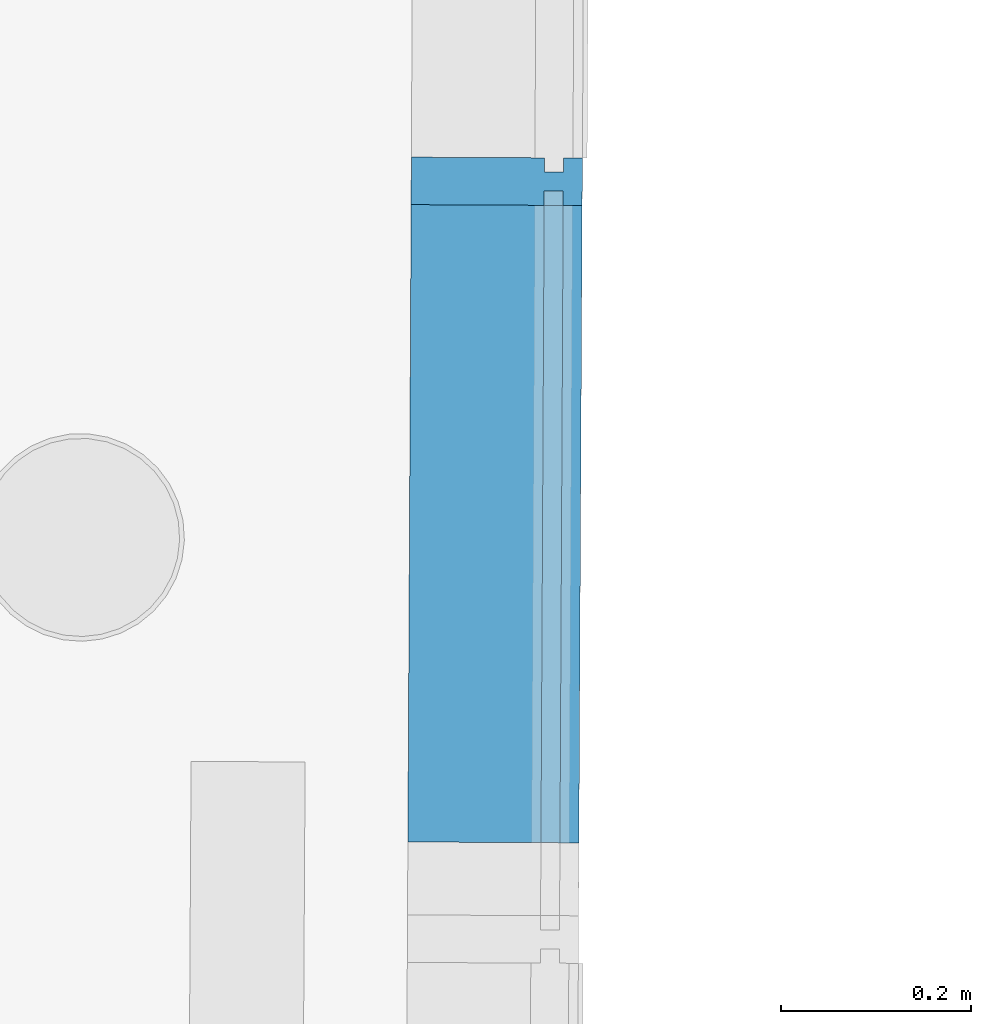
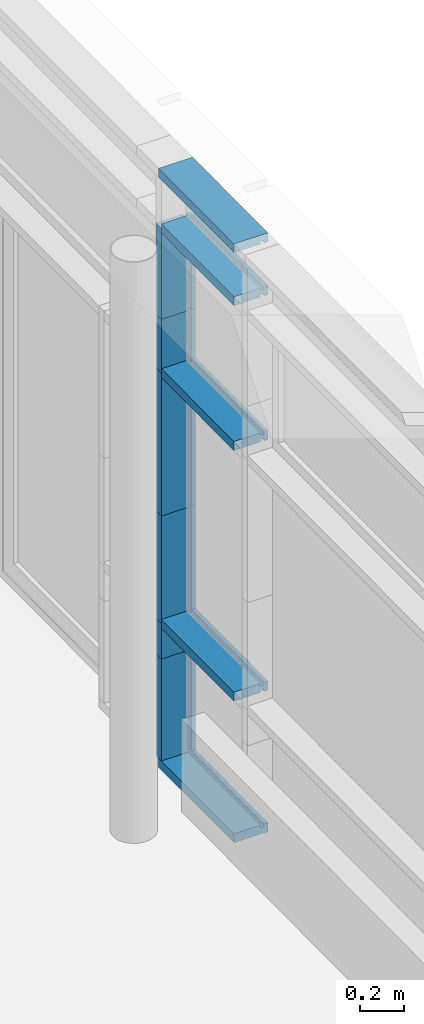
# One storey, part 180 of 196: 11 building element parts, 1 element without a shape of its own.
"""IFC2X3 building model written with IfcOpenShell, lengths in metres."""

from ifc_helpers import new_model, entity, si_unit, converted_unit, derived_unit, money_unit, direction, frame, origin_with_axes, place, context, subcontext, project, spatial, faceted_brep, material, type_object, element, aggregate, save


model = new_model("IFC2X3")

# Units and contexts
model_context = context("Model", 3, precision=1e-05, world=origin_with_axes(), true_north=direction((0.0, 1.0)))
body_context = subcontext(model_context, "Body", "Model", "MODEL_VIEW")
ifc_project = project(units=[si_unit("LENGTHUNIT", "METRE"), si_unit("AREAUNIT", "SQUARE_METRE"), si_unit("VOLUMEUNIT", "CUBIC_METRE"), converted_unit("PLANEANGLEUNIT", "DEGREE", entity("IfcPlaneAngleMeasure", 0.0174532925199), si_unit("PLANEANGLEUNIT", "RADIAN"), dimensions=[0, 0, 0, 0, 0, 0, 0]), money_unit("EUR"), converted_unit("TIMEUNIT", "Year", entity("IfcTimeMeasure", 31556926.0), si_unit("TIMEUNIT", "SECOND"), dimensions=[0, 0, 1, 0, 0, 0, 0]), si_unit("MASSUNIT", "GRAM", prefix="KILO"), si_unit("THERMODYNAMICTEMPERATUREUNIT", "DEGREE_CELSIUS"), si_unit("LUMINOUSINTENSITYUNIT", "LUMEN"), si_unit("ENERGYUNIT", "JOULE", prefix="MEGA"), derived_unit("THERMALCONDUCTANCEUNIT", [(si_unit("POWERUNIT", "WATT"), 1), (si_unit("LENGTHUNIT", "METRE"), -1), (si_unit("THERMODYNAMICTEMPERATUREUNIT", "KELVIN"), -1)]), derived_unit("SPECIFICHEATCAPACITYUNIT", [(si_unit("ENERGYUNIT", "JOULE"), 1), (si_unit("MASSUNIT", "GRAM", prefix="KILO"), -1), (si_unit("THERMODYNAMICTEMPERATUREUNIT", "KELVIN"), -1)]), derived_unit("MASSDENSITYUNIT", [(si_unit("MASSUNIT", "GRAM", prefix="KILO"), 1), (si_unit("VOLUMEUNIT", "CUBIC_METRE"), -1)])], contexts=[model_context])

# Site, building, storey
site_placement = place(None, origin_with_axes())
site = spatial("IfcSite", under=ifc_project, at=site_placement, Name="Gelände", CompositionType="ELEMENT")
building_placement = place(site_placement, origin_with_axes())
building = spatial("IfcBuilding", under=site, at=building_placement, Name="Gebäude", CompositionType="ELEMENT")
storey_placement = place(building_placement, frame((0.0, 0.0, -3.0), z_axis=(0.0, 0.0, 1.0), x_axis=(1.0, 0.0, 0.0)))
storey = spatial("IfcBuildingStorey", under=building, at=storey_placement, Name="KELLERGESCHOSS", CompositionType="ELEMENT", Elevation=-3.0)

# Proxy, building element parts
building_element_proxy_type = type_object("IfcBuildingElementProxyType", Name="Fassadentyp", PredefinedType="NOTDEFINED")
proxy_placement = place(storey_placement, frame((9.16160365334, 37.7476945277, 0.610000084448), z_axis=(0.0, 0.0, 1.0), x_axis=(1.0, 0.0, 0.0)))
proxy = element("IfcBuildingElementProxy", 1, at=proxy_placement, inside=storey, type_object=building_element_proxy_type, Name="Fassade-002")
ifc_material = material(Name="53_Metall, Aluminium")
building_element_part_1_placement = place(proxy_placement, origin_with_axes())
building_element_part_1 = element("IfcBuildingElementPart", 2, at=building_element_part_1_placement, material=ifc_material, Name="53_Metall, Aluminium", context=body_context, shape_type="Brep", body=[
    faceted_brep([(-0.000425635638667, 1.8887673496, 3.01949642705), (-0.000425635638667, 1.8887673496, 3.00449642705), (-0.140423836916, 1.88947702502, 3.00449642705), (-0.140423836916, 1.88947702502, 3.05449642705), (-0.000425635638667, 1.8887673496, 3.05449642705), (-0.000425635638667, 1.8887673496, 3.03949642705), (0.0195741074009, 1.88866596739, 3.03949642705), (0.0195741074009, 1.88866596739, 3.05449642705), (0.0395738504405, 1.88856458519, 3.05449642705), (0.0395738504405, 1.88856458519, 3.00449642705), (0.0195741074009, 1.88866596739, 3.00449642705), (0.0195741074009, 1.88866596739, 3.01949642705), (-0.00382530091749, 1.21811284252, 3.01949642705), (-0.00382530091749, 1.21811284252, 3.00449642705), (-0.143823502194, 1.21882251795, 3.00449642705), (-0.143823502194, 1.21882251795, 3.05449642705), (-0.00382530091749, 1.21811284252, 3.05449642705), (-0.00382530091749, 1.21811284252, 3.03949642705), (0.0161744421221, 1.21801146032, 3.03949642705), (0.0161744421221, 1.21801146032, 3.05449642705), (0.0361741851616, 1.21791007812, 3.05449642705), (0.0361741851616, 1.21791007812, 3.00449642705), (0.0161744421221, 1.21801146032, 3.00449642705), (0.0161744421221, 1.21801146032, 3.01949642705)], [[[0, 1, 2, 3, 4, 5, 6, 7, 8, 9, 10, 11]], [[1, 0, 12, 13]], [[1, 13, 14, 2]], [[3, 2, 14, 15]], [[4, 3, 15, 16]], [[4, 16, 17, 5]], [[5, 17, 18, 6]], [[7, 6, 18, 19]], [[19, 20, 8, 7]], [[9, 8, 20, 21]], [[22, 10, 9, 21]], [[11, 10, 22, 23]], [[0, 11, 23, 12]], [[23, 22, 21, 20, 19, 18, 17, 16, 15, 14, 13, 12]]]),
])
building_element_part_2_placement = place(proxy_placement, origin_with_axes())
building_element_part_2 = element("IfcBuildingElementPart", 3, at=building_element_part_2_placement, material=ifc_material, Name="53_Metall, Aluminium", context=body_context, shape_type="Brep", body=[
    faceted_brep([(-0.000298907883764, 1.91376702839, 3.31499994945), (-0.000298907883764, 1.91376702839, 3.29999994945), (-0.140297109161, 1.91447670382, 3.29999994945), (-0.140297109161, 1.91447670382, 3.34999994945), (0.0397005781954, 1.91356426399, 3.34999994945), (0.0397005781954, 1.91356426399, 3.29999994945), (0.0197008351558, 1.91366564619, 3.29999994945), (0.0197008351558, 1.91366564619, 3.31499994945), (-0.00382530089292, 1.21811284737, 3.31499994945), (-0.00382530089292, 1.21811284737, 3.29999994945), (-0.14382350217, 1.2188225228, 3.29999994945), (-0.14382350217, 1.2188225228, 3.34999994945), (0.0361741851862, 1.21791008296, 3.34999994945), (0.0361741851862, 1.21791008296, 3.29999994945), (0.0161744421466, 1.21801146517, 3.29999994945), (0.0161744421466, 1.21801146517, 3.31499994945)], [[[0, 1, 2, 3, 4, 5, 6, 7]], [[0, 8, 9, 1]], [[9, 10, 2, 1]], [[10, 11, 3, 2]], [[11, 12, 4, 3]], [[12, 13, 5, 4]], [[6, 5, 13, 14]], [[14, 15, 7, 6]], [[7, 15, 8, 0]], [[8, 15, 14, 13, 12, 11, 10, 9]]]),
])
building_element_part_3_placement = place(proxy_placement, origin_with_axes())
building_element_part_3 = element("IfcBuildingElementPart", 4, at=building_element_part_3_placement, material=ifc_material, Name="53_Metall, Aluminium", context=body_context, shape_type="Brep", body=[
    faceted_brep([(-0.000248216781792, 1.92376689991, 3.02949640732), (-0.000172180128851, 1.93876670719, 3.02949640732), (-0.140170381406, 1.93947638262, 3.02949640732), (-0.140423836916, 1.88947702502, 3.02949640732), (-0.000425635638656, 1.8887673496, 3.02949640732), (-0.000349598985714, 1.90376715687, 3.02949640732), (0.0196501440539, 1.90366577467, 3.02949640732), (0.0195741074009, 1.88866596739, 3.02949640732), (0.0395738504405, 1.88856458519, 3.02949640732), (0.0398273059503, 1.93856394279, 3.02949640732), (0.0198275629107, 1.93866532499, 3.02949640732), (0.0197515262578, 1.92366551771, 3.02949640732), (-0.000248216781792, 1.92376689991, 2.51999991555), (-0.000172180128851, 1.93876670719, 2.51999991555), (-0.140170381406, 1.93947638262, 2.51999991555), (-0.140423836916, 1.88947702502, 2.51999991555), (-0.000425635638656, 1.8887673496, 2.51999991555), (-0.000349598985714, 1.90376715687, 2.51999991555), (0.0196501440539, 1.90366577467, 2.51999991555), (0.0195741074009, 1.88866596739, 2.51999991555), (0.0395738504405, 1.88856458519, 2.51999991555), (0.0398273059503, 1.93856394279, 2.51999991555), (0.0198275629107, 1.93866532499, 2.51999991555), (0.0197515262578, 1.92366551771, 2.51999991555)], [[[0, 1, 2, 3, 4, 5, 6, 7, 8, 9, 10, 11]], [[1, 0, 12, 13]], [[1, 13, 14, 2]], [[3, 2, 14, 15]], [[4, 3, 15, 16]], [[4, 16, 17, 5]], [[5, 17, 18, 6]], [[7, 6, 18, 19]], [[19, 20, 8, 7]], [[9, 8, 20, 21]], [[22, 10, 9, 21]], [[11, 10, 22, 23]], [[0, 11, 23, 12]], [[23, 22, 21, 20, 19, 18, 17, 16, 15, 14, 13, 12]]]),
])
building_element_part_4_placement = place(proxy_placement, origin_with_axes())
building_element_part_4 = element("IfcBuildingElementPart", 5, at=building_element_part_4_placement, material=ifc_material, Name="53_Metall, Aluminium", context=body_context, shape_type="Brep", body=[
    faceted_brep([(-0.000248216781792, 1.92376689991, 2.51999992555), (-0.000172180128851, 1.93876670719, 2.51999992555), (-0.140170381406, 1.93947638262, 2.51999992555), (-0.140423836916, 1.88947702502, 2.51999992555), (-0.000425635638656, 1.8887673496, 2.51999992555), (-0.000349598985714, 1.90376715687, 2.51999992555), (0.0196501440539, 1.90366577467, 2.51999992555), (0.0195741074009, 1.88866596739, 2.51999992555), (0.0395738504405, 1.88856458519, 2.51999992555), (0.0398273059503, 1.93856394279, 2.51999992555), (0.0198275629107, 1.93866532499, 2.51999992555), (0.0197515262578, 1.92366551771, 2.51999992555), (-0.000248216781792, 1.92376689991, 2.21916310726), (-0.000172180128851, 1.93876670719, 2.21916310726), (-0.140170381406, 1.93947638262, 2.21916310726), (-0.140423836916, 1.88947702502, 2.21916310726), (-0.000425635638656, 1.8887673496, 2.21916310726), (-0.000349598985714, 1.90376715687, 2.21916310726), (0.0196501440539, 1.90366577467, 2.21916310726), (0.0195741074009, 1.88866596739, 2.21916310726), (0.0395738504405, 1.88856458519, 2.21916310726), (0.0398273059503, 1.93856394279, 2.21916310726), (0.0198275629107, 1.93866532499, 2.21916310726), (0.0197515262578, 1.92366551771, 2.21916310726)], [[[0, 1, 2, 3, 4, 5, 6, 7, 8, 9, 10, 11]], [[1, 0, 12, 13]], [[1, 13, 14, 2]], [[3, 2, 14, 15]], [[4, 3, 15, 16]], [[4, 16, 17, 5]], [[5, 17, 18, 6]], [[7, 6, 18, 19]], [[19, 20, 8, 7]], [[9, 8, 20, 21]], [[22, 10, 9, 21]], [[11, 10, 22, 23]], [[0, 11, 23, 12]], [[23, 22, 21, 20, 19, 18, 17, 16, 15, 14, 13, 12]]]),
])
building_element_part_5_placement = place(proxy_placement, origin_with_axes())
building_element_part_5 = element("IfcBuildingElementPart", 6, at=building_element_part_5_placement, material=ifc_material, Name="53_Metall, Aluminium", context=body_context, shape_type="Brep", body=[
    faceted_brep([(-0.000425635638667, 1.8887673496, 2.20916310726), (-0.000425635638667, 1.8887673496, 2.19416310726), (-0.140423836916, 1.88947702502, 2.19416310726), (-0.140423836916, 1.88947702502, 2.24416310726), (-0.000425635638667, 1.8887673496, 2.24416310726), (-0.000425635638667, 1.8887673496, 2.22916310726), (0.0195741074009, 1.88866596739, 2.22916310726), (0.0195741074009, 1.88866596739, 2.24416310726), (0.0395738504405, 1.88856458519, 2.24416310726), (0.0395738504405, 1.88856458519, 2.19416310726), (0.0195741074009, 1.88866596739, 2.19416310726), (0.0195741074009, 1.88866596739, 2.20916310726), (-0.00382530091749, 1.21811284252, 2.20916310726), (-0.00382530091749, 1.21811284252, 2.19416310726), (-0.143823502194, 1.21882251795, 2.19416310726), (-0.143823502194, 1.21882251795, 2.24416310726), (-0.00382530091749, 1.21811284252, 2.24416310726), (-0.00382530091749, 1.21811284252, 2.22916310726), (0.0161744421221, 1.21801146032, 2.22916310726), (0.0161744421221, 1.21801146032, 2.24416310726), (0.0361741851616, 1.21791007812, 2.24416310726), (0.0361741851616, 1.21791007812, 2.19416310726), (0.0161744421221, 1.21801146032, 2.19416310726), (0.0161744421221, 1.21801146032, 2.20916310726)], [[[0, 1, 2, 3, 4, 5, 6, 7, 8, 9, 10, 11]], [[1, 0, 12, 13]], [[1, 13, 14, 2]], [[3, 2, 14, 15]], [[4, 3, 15, 16]], [[4, 16, 17, 5]], [[5, 17, 18, 6]], [[7, 6, 18, 19]], [[19, 20, 8, 7]], [[9, 8, 20, 21]], [[22, 10, 9, 21]], [[11, 10, 22, 23]], [[0, 11, 23, 12]], [[23, 22, 21, 20, 19, 18, 17, 16, 15, 14, 13, 12]]]),
])
building_element_part_6_placement = place(proxy_placement, origin_with_axes())
building_element_part_6 = element("IfcBuildingElementPart", 7, at=building_element_part_6_placement, material=ifc_material, Name="53_Metall, Aluminium", context=body_context, shape_type="Brep", body=[
    faceted_brep([(-0.000248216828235, 1.92376689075, 2.21916309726), (-0.000172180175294, 1.93876669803, 2.21916309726), (-0.140170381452, 1.93947637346, 2.21916309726), (-0.140423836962, 1.88947701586, 2.21916309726), (-0.000425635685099, 1.88876734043, 2.21916309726), (-0.000349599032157, 1.90376714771, 2.21916309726), (0.0196501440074, 1.90366576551, 2.21916309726), (0.0195741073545, 1.88866595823, 2.21916309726), (0.039573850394, 1.88856457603, 2.21916309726), (0.0398273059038, 1.93856393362, 2.21916309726), (0.0198275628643, 1.93866531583, 2.21916309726), (0.0197515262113, 1.92366550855, 2.21916309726), (-0.000248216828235, 1.92376689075, 1.41999991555), (-0.000172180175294, 1.93876669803, 1.41999991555), (-0.140170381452, 1.93947637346, 1.41999991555), (-0.140423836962, 1.88947701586, 1.41999991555), (-0.000425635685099, 1.88876734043, 1.41999991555), (-0.000349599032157, 1.90376714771, 1.41999991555), (0.0196501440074, 1.90366576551, 1.41999991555), (0.0195741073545, 1.88866595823, 1.41999991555), (0.039573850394, 1.88856457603, 1.41999991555), (0.0398273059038, 1.93856393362, 1.41999991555), (0.0198275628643, 1.93866531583, 1.41999991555), (0.0197515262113, 1.92366550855, 1.41999991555)], [[[0, 1, 2, 3, 4, 5, 6, 7, 8, 9, 10, 11]], [[1, 0, 12, 13]], [[1, 13, 14, 2]], [[3, 2, 14, 15]], [[4, 3, 15, 16]], [[4, 16, 17, 5]], [[5, 17, 18, 6]], [[7, 6, 18, 19]], [[19, 20, 8, 7]], [[9, 8, 20, 21]], [[22, 10, 9, 21]], [[11, 10, 22, 23]], [[0, 11, 23, 12]], [[23, 22, 21, 20, 19, 18, 17, 16, 15, 14, 13, 12]]]),
])
building_element_part_7_placement = place(proxy_placement, origin_with_axes())
building_element_part_7 = element("IfcBuildingElementPart", 8, at=building_element_part_7_placement, material=ifc_material, Name="53_Metall, Aluminium", context=body_context, shape_type="Brep", body=[
    faceted_brep([(-0.000248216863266, 1.92376688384, 1.41999990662), (-0.000172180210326, 1.93876669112, 1.41999990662), (-0.140170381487, 1.93947636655, 1.41999990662), (-0.140423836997, 1.88947700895, 1.41999990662), (-0.000425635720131, 1.88876733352, 1.41999990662), (-0.000349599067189, 1.9037671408, 1.41999990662), (0.0196501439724, 1.9036657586, 1.41999990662), (0.0195741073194, 1.88866595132, 1.41999990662), (0.039573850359, 1.88856456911, 1.41999990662), (0.0398273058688, 1.93856392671, 1.41999990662), (0.0198275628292, 1.93866530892, 1.41999990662), (0.0197515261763, 1.92366550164, 1.41999990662), (-0.000248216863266, 1.92376688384, 0.817169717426), (-0.000172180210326, 1.93876669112, 0.817169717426), (-0.140170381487, 1.93947636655, 0.817169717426), (-0.140423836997, 1.88947700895, 0.817169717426), (-0.000425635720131, 1.88876733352, 0.817169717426), (-0.000349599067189, 1.9037671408, 0.817169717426), (0.0196501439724, 1.9036657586, 0.817169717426), (0.0195741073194, 1.88866595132, 0.817169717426), (0.039573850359, 1.88856456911, 0.817169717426), (0.0398273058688, 1.93856392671, 0.817169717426), (0.0198275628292, 1.93866530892, 0.817169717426), (0.0197515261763, 1.92366550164, 0.817169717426)], [[[0, 1, 2, 3, 4, 5, 6, 7, 8, 9, 10, 11]], [[1, 0, 12, 13]], [[1, 13, 14, 2]], [[3, 2, 14, 15]], [[4, 3, 15, 16]], [[4, 16, 17, 5]], [[5, 17, 18, 6]], [[7, 6, 18, 19]], [[19, 20, 8, 7]], [[9, 8, 20, 21]], [[22, 10, 9, 21]], [[11, 10, 22, 23]], [[0, 11, 23, 12]], [[23, 22, 21, 20, 19, 18, 17, 16, 15, 14, 13, 12]]]),
])
building_element_part_8_placement = place(proxy_placement, origin_with_axes())
building_element_part_8 = element("IfcBuildingElementPart", 9, at=building_element_part_8_placement, material=ifc_material, Name="53_Metall, Aluminium", context=body_context, shape_type="Brep", body=[
    faceted_brep([(-0.000425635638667, 1.8887673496, 0.807169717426), (-0.000425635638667, 1.8887673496, 0.792169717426), (-0.140423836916, 1.88947702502, 0.792169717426), (-0.140423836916, 1.88947702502, 0.842169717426), (-0.000425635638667, 1.8887673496, 0.842169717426), (-0.000425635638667, 1.8887673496, 0.827169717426), (0.0195741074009, 1.88866596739, 0.827169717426), (0.0195741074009, 1.88866596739, 0.842169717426), (0.0395738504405, 1.88856458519, 0.842169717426), (0.0395738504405, 1.88856458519, 0.792169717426), (0.0195741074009, 1.88866596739, 0.792169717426), (0.0195741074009, 1.88866596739, 0.807169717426), (-0.00382530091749, 1.21811284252, 0.807169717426), (-0.00382530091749, 1.21811284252, 0.792169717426), (-0.143823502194, 1.21882251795, 0.792169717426), (-0.143823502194, 1.21882251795, 0.842169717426), (-0.00382530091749, 1.21811284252, 0.842169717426), (-0.00382530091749, 1.21811284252, 0.827169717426), (0.0161744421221, 1.21801146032, 0.827169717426), (0.0161744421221, 1.21801146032, 0.842169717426), (0.0361741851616, 1.21791007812, 0.842169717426), (0.0361741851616, 1.21791007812, 0.792169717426), (0.0161744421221, 1.21801146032, 0.792169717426), (0.0161744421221, 1.21801146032, 0.807169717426)], [[[0, 1, 2, 3, 4, 5, 6, 7, 8, 9, 10, 11]], [[1, 0, 12, 13]], [[1, 13, 14, 2]], [[3, 2, 14, 15]], [[4, 3, 15, 16]], [[4, 16, 17, 5]], [[5, 17, 18, 6]], [[7, 6, 18, 19]], [[19, 20, 8, 7]], [[9, 8, 20, 21]], [[22, 10, 9, 21]], [[11, 10, 22, 23]], [[0, 11, 23, 12]], [[23, 22, 21, 20, 19, 18, 17, 16, 15, 14, 13, 12]]]),
])
building_element_part_9_placement = place(proxy_placement, origin_with_axes())
building_element_part_9 = element("IfcBuildingElementPart", 10, at=building_element_part_9_placement, material=ifc_material, Name="53_Metall, Aluminium", context=body_context, shape_type="Brep", body=[
    faceted_brep([(-0.000248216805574, 1.92376689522, 0.817169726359), (-0.000172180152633, 1.9387667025, 0.817169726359), (-0.14017038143, 1.93947637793, 0.817169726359), (-0.140423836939, 1.88947702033, 0.817169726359), (-0.000425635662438, 1.8887673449, 0.817169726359), (-0.000349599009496, 1.90376715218, 0.817169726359), (0.0196501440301, 1.90366576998, 0.817169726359), (0.0195741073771, 1.8886659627, 0.817169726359), (0.0395738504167, 1.8885645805, 0.817169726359), (0.0398273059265, 1.93856393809, 0.817169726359), (0.0198275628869, 1.9386653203, 0.817169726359), (0.019751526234, 1.92366551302, 0.817169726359), (-0.000248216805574, 1.92376689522, 0.619999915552), (-0.000172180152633, 1.9387667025, 0.619999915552), (-0.14017038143, 1.93947637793, 0.619999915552), (-0.140423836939, 1.88947702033, 0.619999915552), (-0.000425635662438, 1.8887673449, 0.619999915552), (-0.000349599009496, 1.90376715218, 0.619999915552), (0.0196501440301, 1.90366576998, 0.619999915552), (0.0195741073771, 1.8886659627, 0.619999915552), (0.0395738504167, 1.8885645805, 0.619999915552), (0.0398273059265, 1.93856393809, 0.619999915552), (0.0198275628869, 1.9386653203, 0.619999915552), (0.019751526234, 1.92366551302, 0.619999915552)], [[[0, 1, 2, 3, 4, 5, 6, 7, 8, 9, 10, 11]], [[1, 0, 12, 13]], [[1, 13, 14, 2]], [[3, 2, 14, 15]], [[4, 3, 15, 16]], [[4, 16, 17, 5]], [[5, 17, 18, 6]], [[7, 6, 18, 19]], [[19, 20, 8, 7]], [[9, 8, 20, 21]], [[22, 10, 9, 21]], [[11, 10, 22, 23]], [[0, 11, 23, 12]], [[23, 22, 21, 20, 19, 18, 17, 16, 15, 14, 13, 12]]]),
])
building_element_part_10_placement = place(proxy_placement, origin_with_axes())
building_element_part_10 = element("IfcBuildingElementPart", 11, at=building_element_part_10_placement, material=ifc_material, Name="53_Metall, Aluminium", context=body_context, shape_type="Brep", body=[
    faceted_brep([(-0.00024821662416, 1.92376693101, 0.619999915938), (-0.000172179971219, 1.93876673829, 0.619999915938), (-0.140170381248, 1.93947641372, 0.619999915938), (-0.140423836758, 1.88947705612, 0.619999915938), (-0.000425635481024, 1.88876738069, 0.619999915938), (-0.000349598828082, 1.90376718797, 0.619999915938), (0.0196501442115, 1.90366580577, 0.619999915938), (0.0195741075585, 1.88866599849, 0.619999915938), (0.0395738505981, 1.88856461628, 0.619999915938), (0.0398273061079, 1.93856397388, 0.619999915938), (0.0198275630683, 1.93866535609, 0.619999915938), (0.0197515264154, 1.92366554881, 0.619999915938), (-0.00024821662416, 1.92376693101, 0.0499998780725), (-0.000172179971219, 1.93876673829, 0.0499998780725), (-0.140170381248, 1.93947641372, 0.0499998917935), (-0.140423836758, 1.88947705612, 0.0499998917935), (-0.000425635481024, 1.88876738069, 0.0499998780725), (-0.000349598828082, 1.90376718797, 0.0499998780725), (0.0196501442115, 1.90366580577, 0.0499998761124), (0.0195741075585, 1.88866599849, 0.0499998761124), (0.0395738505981, 1.88856461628, 0.0499998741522), (0.0398273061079, 1.93856397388, 0.0499998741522), (0.0198275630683, 1.93866535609, 0.0499998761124), (0.0197515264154, 1.92366554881, 0.0499998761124)], [[[0, 1, 2, 3, 4, 5, 6, 7, 8, 9, 10, 11]], [[1, 0, 12, 13]], [[1, 13, 14, 2]], [[2, 14, 15, 3]], [[4, 3, 15, 16]], [[4, 16, 17, 5]], [[5, 17, 18, 6]], [[7, 6, 18, 19]], [[19, 20, 8, 7]], [[8, 20, 21, 9]], [[22, 10, 9, 21]], [[11, 10, 22, 23]], [[0, 11, 23, 12]], [[23, 22, 21, 20, 19, 18, 17, 16, 15, 14, 13, 12]]]),
])
building_element_part_11_placement = place(proxy_placement, origin_with_axes())
building_element_part_11 = element("IfcBuildingElementPart", 12, at=building_element_part_11_placement, material=ifc_material, Name="53_Metall, Aluminium", context=body_context, shape_type="Brep", body=[
    faceted_brep([(-0.000298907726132, 1.91376705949, 0.0349998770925), (0.0197008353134, 1.91366567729, 0.0349998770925), (0.0197008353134, 1.91366567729, 0.0499998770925), (0.039700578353, 1.91356429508, 0.0499998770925), (0.039700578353, 1.91356429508, -1.22907543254e-07), (-0.140297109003, 1.91447673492, -1.22907543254e-07), (-0.140297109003, 1.91447673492, 0.0499998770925), (-0.000298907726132, 1.91376705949, 0.0499998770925), (-0.00382530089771, 1.21811284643, 0.0349998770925), (0.0161744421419, 1.21801146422, 0.0349998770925), (0.0161744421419, 1.21801146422, 0.0499998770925), (0.0361741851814, 1.21791008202, 0.0499998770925), (0.0361741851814, 1.21791008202, -1.22907543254e-07), (-0.143823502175, 1.21882252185, -1.22907543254e-07), (-0.143823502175, 1.21882252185, 0.0499998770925), (-0.00382530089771, 1.21811284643, 0.0499998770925)], [[[0, 1, 2, 3, 4, 5, 6, 7]], [[1, 0, 8, 9]], [[10, 2, 1, 9]], [[2, 10, 11, 3]], [[12, 4, 3, 11]], [[13, 5, 4, 12]], [[14, 6, 5, 13]], [[15, 7, 6, 14]], [[0, 7, 15, 8]], [[8, 15, 14, 13, 12, 11, 10, 9]]]),
])
aggregate(proxy, [building_element_part_1, building_element_part_2, building_element_part_3, building_element_part_4, building_element_part_5, building_element_part_6, building_element_part_7, building_element_part_8, building_element_part_9, building_element_part_10, building_element_part_11])

save(model, "model.ifc")
